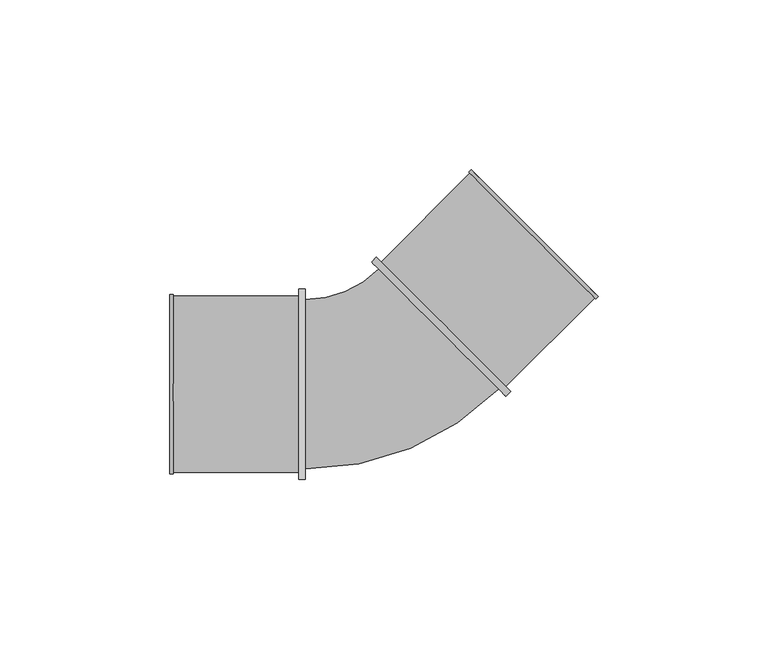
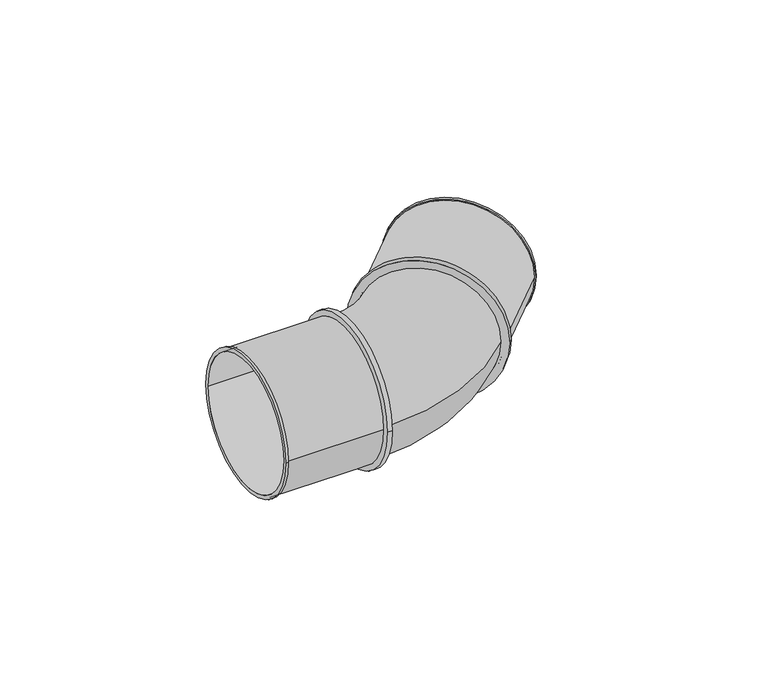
"""IFC4 building model written with IfcOpenShell, lengths in millimetres: pipe fitting geometry, SuperPipe_Elbow_SPressPlus : SuperPipe_Elbow_SPressPlus."""

from ifc_helpers import new_model, si_unit, point, frame, origin, origin_2d, place, context, project, spatial, polyline, circle_curve, ellipse_curve, trimmed, segment, composite_curve, outline, extrude, source, transform, mapped, element, save
from ifc_brep_helpers import plane_surface, cylinder_surface, revolved_surface, advanced_brep


def pipe_fitting_7024b630(model_context):
    return source(origin(), model_context, "Body", "SolidModel", [
        extrude(outline(composite_curve([segment(trimmed(circle_curve(origin_2d(), 28.0), [point((-28.0, 0.0))], [point((28.0, 0.0))], False, "CARTESIAN"), True, "CONTINUOUS"), segment(trimmed(circle_curve(origin_2d(), 28.0), [point((28.0, 0.0))], [point((-28.0, 0.0))], False, "CARTESIAN"), True, "CONTINUOUS")], self_intersect=False), holes=[composite_curve([segment(trimmed(circle_curve(origin_2d(), 25.0), [point((-25.0, 0.0))], [point((25.0, 0.0))], True, "CARTESIAN"), True, "CONTINUOUS"), segment(trimmed(circle_curve(origin_2d(), 25.0), [point((25.0, 0.0))], [point((-25.0, 0.0))], True, "CARTESIAN"), True, "CONTINUOUS")], self_intersect=False)]), frame((-25.0, 0.0, 0.0), z_axis=(1.0, 0.0, 0.0), x_axis=(0.0, 1.0, 0.0)), (0.0, 0.0, 1.0), 2.0),
        extrude(outline(composite_curve([segment(trimmed(circle_curve(origin_2d(), 28.0), [point((0.0, -28.0))], [point((0.0, 28.0))], False, "CARTESIAN"), True, "CONTINUOUS"), segment(trimmed(circle_curve(origin_2d(), 28.0), [point((0.0, 28.0))], [point((0.0, -28.0))], False, "CARTESIAN"), True, "CONTINUOUS")], self_intersect=False), holes=[composite_curve([segment(trimmed(circle_curve(origin_2d(), 25.0), [point((0.0, 25.0))], [point((0.0, -25.0))], True, "CARTESIAN"), True, "CONTINUOUS"), segment(trimmed(circle_curve(origin_2d(), 25.0), [point((0.0, -25.0))], [point((0.0, 25.0))], True, "CARTESIAN"), True, "CONTINUOUS")], self_intersect=False)]), frame((16.263456, 16.263456, 0.0), z_axis=(0.7071067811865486, 0.7071067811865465, 0.0), x_axis=(0.0, 0.0, -1.0)), (0.0, 0.0, 1.0), 2.0),
        advanced_brep(
        [(-63.0, -26.5, 0.0), (-63.0, 26.5, 0.0), (-63.0, -25.0, 0.0), (-63.0, 25.0, 0.0), (-25.0, -26.0, 0.0), (-25.0, 26.0, 0.0), (-25.0, -25.0, 0.0), (-25.0, 25.0, 0.0), (-62.0, 26.0, 0.0), (-62.0, -26.0, 0.0), (-62.0, -26.5, 0.0), (-62.0, 26.5, 0.0)],
        [
            (0, 1, circle_curve(frame((-63.0, 0.0, 0.0), z_axis=(-1.0, 0.0, 0.0), x_axis=(0.0, 1.0, 0.0)), 26.5)),
            (1, 0, circle_curve(frame((-63.0, 0.0, 0.0), z_axis=(-1.0, 0.0, 0.0), x_axis=(0.0, 1.0, 0.0)), 26.5)),
            (2, 3, circle_curve(frame((-63.0, 0.0, 0.0), z_axis=(1.0, 0.0, 0.0), x_axis=(0.0, 1.0, 0.0)), 25.0)),
            (3, 2, circle_curve(frame((-63.0, 0.0, 0.0), z_axis=(1.0, 0.0, 0.0), x_axis=(0.0, 1.0, 0.0)), 25.0)),
            (4, 5, circle_curve(frame((-25.0, 0.0, 0.0), z_axis=(1.0, 0.0, 0.0), x_axis=(0.0, 1.0, 0.0)), 26.0)),
            (5, 4, circle_curve(frame((-25.0, 0.0, 0.0), z_axis=(1.0, 0.0, 0.0), x_axis=(0.0, 1.0, 0.0)), 26.0)),
            (6, 7, circle_curve(frame((-25.0, 0.0, 0.0), z_axis=(-1.0, 0.0, 0.0), x_axis=(0.0, 1.0, 0.0)), 25.0)),
            (7, 6, circle_curve(frame((-25.0, 0.0, 0.0), z_axis=(-1.0, 0.0, 0.0), x_axis=(0.0, 1.0, 0.0)), 25.0)),
            (2, 6),
            (7, 3),
            (5, 8),
            (8, 9, circle_curve(frame((-62.0, 0.0, 0.0), z_axis=(1.0, 0.0, 0.0), x_axis=(0.0, 1.0, 0.0)), 26.0)),
            (9, 4),
            (9, 8, circle_curve(frame((-62.0, 0.0, 0.0), z_axis=(1.0, 0.0, 0.0), x_axis=(0.0, 1.0, 0.0)), 26.0)),
            (10, 11, circle_curve(frame((-62.0, 0.0, 0.0), z_axis=(1.0, 0.0, 0.0), x_axis=(0.0, 1.0, 0.0)), 26.5)),
            (11, 10, circle_curve(frame((-62.0, 0.0, 0.0), z_axis=(1.0, 0.0, 0.0), x_axis=(0.0, 1.0, 0.0)), 26.5)),
            (0, 10),
            (11, 1),
        ],
        [
            plane_surface(frame((-63.0, 0.0, 0.0), z_axis=(-1.0, 0.0, 0.0), x_axis=(0.0, 0.0, 1.0))),
            plane_surface(frame((-25.0, 0.0, 0.0), z_axis=(1.0, 0.0, 0.0), x_axis=(0.0, 0.0, 1.0))),
            revolved_surface(polyline([(-25.0, 25.0, 0.0), (-63.0, 25.0, 0.0)]), (-63.0, 0.0, 0.0), (1.0, 0.0, 0.0)),
            cylinder_surface(frame((-63.0, 0.0, 0.0), z_axis=(-1.0, 0.0, 0.0), x_axis=(0.0, 1.0, 0.0)), 26.0),
            plane_surface(frame((-62.0, 0.0, 0.0), z_axis=(1.0, 0.0, 0.0), x_axis=(0.0, 0.0, 1.0))),
            cylinder_surface(frame((-63.0, 0.0, 0.0), z_axis=(-1.0, 0.0, 0.0), x_axis=(0.0, 1.0, 0.0)), 26.5),
        ],
        [
            (0, [[1, 2], [3, 4]]),
            (1, [[5, 6], [7, 8]]),
            (2, [[-3, 9, -8, 10]]),
            (2, [[-4, -10, -7, -9]]),
            (3, [[-6, 11, 12, 13]]),
            (3, [[-5, -13, 14, -11]]),
            (4, [[15, 16], [-12, -14]]),
            (5, [[-1, 17, -16, 18]]),
            (5, [[-2, -18, -15, -17]]),
        ],
    ),
        advanced_brep(
        [(36.0624458, -0.7071068, 0.0), (-0.7071068, 36.0624458, 0.0), (35.3553391, 0.0, 0.0), (0.0, 35.3553391, 0.0), (63.2860569, 25.8093975, 0.0), (25.8093975, 63.2860569, 0.0), (62.2253967, 26.8700577, 0.0), (26.8700577, 62.2253967, 0.0), (62.2253967, 25.4558441, 0.0), (25.4558441, 62.2253967, 0.0), (62.5789501, 25.1022907, 0.0), (25.1022907, 62.5789501, 0.0)],
        [
            (0, 1, circle_curve(frame((17.6776695, 17.6776695, 0.0), z_axis=(-0.7071067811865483, -0.7071067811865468, 0.0), x_axis=(-0.7071067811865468, 0.7071067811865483, 0.0)), 26.0)),
            (1, 0, circle_curve(frame((17.6776695, 17.6776695, 0.0), z_axis=(-0.7071067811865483, -0.7071067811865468, 0.0), x_axis=(-0.7071067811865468, 0.7071067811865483, 0.0)), 26.0)),
            (2, 3, circle_curve(frame((17.6776695, 17.6776695, 0.0), z_axis=(0.7071067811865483, 0.7071067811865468, 0.0), x_axis=(-0.7071067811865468, 0.7071067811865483, 0.0)), 25.0)),
            (3, 2, circle_curve(frame((17.6776695, 17.6776695, 0.0), z_axis=(0.7071067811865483, 0.7071067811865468, 0.0), x_axis=(-0.7071067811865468, 0.7071067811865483, 0.0)), 25.0)),
            (4, 5, circle_curve(frame((44.5477272, 44.5477272, 0.0), z_axis=(0.7071067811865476, 0.7071067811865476, 0.0), x_axis=(-0.7071067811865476, 0.7071067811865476, 0.0)), 26.5)),
            (5, 4, circle_curve(frame((44.5477272, 44.5477272, 0.0), z_axis=(0.7071067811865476, 0.7071067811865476, 0.0), x_axis=(-0.7071067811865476, 0.7071067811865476, 0.0)), 26.5)),
            (6, 7, circle_curve(frame((44.5477272, 44.5477272, 0.0), z_axis=(-0.7071067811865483, -0.7071067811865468, 0.0), x_axis=(-0.7071067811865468, 0.7071067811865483, 0.0)), 25.0)),
            (7, 6, circle_curve(frame((44.5477272, 44.5477272, 0.0), z_axis=(-0.7071067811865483, -0.7071067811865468, 0.0), x_axis=(-0.7071067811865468, 0.7071067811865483, 0.0)), 25.0)),
            (0, 8),
            (8, 9, circle_curve(frame((43.8406204, 43.8406204, 0.0), z_axis=(-0.7071067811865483, -0.7071067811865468, 0.0), x_axis=(-0.7071067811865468, 0.7071067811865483, 0.0)), 26.0)),
            (9, 1),
            (9, 8, circle_curve(frame((43.8406204, 43.8406204, 0.0), z_axis=(-0.7071067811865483, -0.7071067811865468, 0.0), x_axis=(-0.7071067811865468, 0.7071067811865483, 0.0)), 26.0)),
            (2, 6),
            (7, 3),
            (10, 11, circle_curve(frame((43.8406204, 43.8406204, 0.0), z_axis=(-0.7071067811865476, -0.7071067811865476, 0.0), x_axis=(-0.7071067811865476, 0.7071067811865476, 0.0)), 26.5)),
            (11, 10, circle_curve(frame((43.8406204, 43.8406204, 0.0), z_axis=(-0.7071067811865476, -0.7071067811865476, 0.0), x_axis=(-0.7071067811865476, 0.7071067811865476, 0.0)), 26.5)),
            (11, 5),
            (4, 10),
        ],
        [
            plane_surface(frame((17.6776695, 17.6776695, 0.0), z_axis=(-0.7071067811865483, -0.7071067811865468, 0.0), x_axis=(0.0, 0.0, 1.0))),
            plane_surface(frame((44.5477272, 44.5477272, 0.0), z_axis=(0.7071067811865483, 0.7071067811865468, 0.0), x_axis=(0.0, 0.0, 1.0))),
            cylinder_surface(frame((17.6776695, 17.6776695, 0.0), z_axis=(-0.7071067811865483, -0.7071067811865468, 0.0), x_axis=(-0.7071067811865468, 0.7071067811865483, 0.0)), 26.0),
            revolved_surface(polyline([(26.870057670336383, 62.2253967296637, 0.0), (-2.9663670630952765e-08, 35.35533902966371, 0.0)]), (17.6776695, 17.6776695, 0.0), (0.7071067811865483, 0.7071067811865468, 0.0)),
            plane_surface(frame((43.8406204, 43.8406204, 0.0), z_axis=(-0.7071067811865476, -0.7071067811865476, 0.0), x_axis=(0.0, 0.0, 1.0))),
            cylinder_surface(frame((43.8406204, 43.8406204, 0.0), z_axis=(-0.7071067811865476, -0.7071067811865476, 0.0), x_axis=(-0.7071067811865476, 0.7071067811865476, 0.0)), 26.5),
        ],
        [
            (0, [[1, 2], [3, 4]]),
            (1, [[5, 6], [7, 8]]),
            (2, [[-1, 9, 10, 11]]),
            (2, [[-2, -11, 12, -9]]),
            (3, [[-3, 13, -8, 14]]),
            (3, [[-4, -14, -7, -13]]),
            (4, [[15, 16], [-10, -12]]),
            (5, [[-16, 17, -5, 18]]),
            (5, [[-15, -18, -6, -17]]),
        ],
    ),
        advanced_brep(
        [(-23.0, -25.0, 0.0), (-23.0, 25.0, 0.0), (33.9411255, -1.4142136, 0.0), (-1.4142136, 33.9411255, 0.0)],
        [
            (0, 1, circle_curve(frame((-23.0, 0.0, 0.0), z_axis=(-1.0, 0.0, 0.0), x_axis=(0.0, 1.0, 0.0)), 25.0)),
            (1, 0, circle_curve(frame((-23.0, 0.0, 0.0), z_axis=(-1.0, 0.0, 0.0), x_axis=(0.0, 1.0, 0.0)), 25.0)),
            (2, 3, circle_curve(frame((16.263456, 16.263456, 0.0), z_axis=(0.7071067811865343, 0.7071067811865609, 0.0), x_axis=(-0.7071067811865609, 0.7071067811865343, 0.0)), 25.0)),
            (3, 2, circle_curve(frame((16.263456, 16.263456, 0.0), z_axis=(0.7071067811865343, 0.7071067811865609, 0.0), x_axis=(-0.7071067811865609, 0.7071067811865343, 0.0)), 25.0)),
            (3, 1, circle_curve(frame((-23.0, 55.5269119, 0.0), z_axis=(0.0, 0.0, -1.0), x_axis=(0.0, -1.0, 0.0)), 30.5269119)),
            (0, 2, circle_curve(frame((-23.0, 55.5269119, 0.0), z_axis=(0.0, 0.0, 1.0), x_axis=(0.0, -1.0, 0.0)), 80.5269119)),
        ],
        [
            plane_surface(frame((-23.0, 0.0, 0.0), z_axis=(-1.0, 0.0, 0.0), x_axis=(0.0, 0.0, 1.0))),
            plane_surface(frame((16.263456, 16.263456, 0.0), z_axis=(0.7071067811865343, 0.7071067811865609, 0.0), x_axis=(0.0, 0.0, 1.0))),
            revolved_surface(trimmed(ellipse_curve(frame((-23.0, 0.0, 0.0), z_axis=(-1.0, 0.0, 0.0), x_axis=(0.0, 1.0, 0.0)), 25.0, 25.0), [point((-23.0, -25.0, 0.0))], [point((-23.0, 25.0, 0.0))], True, "CARTESIAN"), (-23.0, 55.5269119, 0.0), (0.0, 0.0, 1.0)),
            revolved_surface(trimmed(ellipse_curve(frame((-23.0, 0.0, 0.0), z_axis=(-1.0, 0.0, 0.0), x_axis=(0.0, 1.0, 0.0)), 25.0, 25.0), [point((-23.0, 25.0, 0.0))], [point((-23.0, -25.0, 0.0))], True, "CARTESIAN"), (-23.0, 55.5269119, 0.0), (0.0, 0.0, 1.0)),
        ],
        [
            (0, [[1, 2]]),
            (1, [[3, 4]]),
            (2, [[5, -1, 6, -4]]),
            (3, [[-6, -2, -5, -3]]),
        ],
    ),
    ])


if __name__ == "__main__":
    model = new_model("IFC4")
    model_context = context("Model", 3, world=origin())
    ifc_project = project(units=[si_unit("LENGTHUNIT", "METRE", prefix="MILLI")], contexts=[model_context])
    site = spatial("IfcSite", under=ifc_project)
    building = spatial("IfcBuilding", under=site)
    placement = place(None, origin())
    pipe_fitting_shape = pipe_fitting_7024b630(model_context)
    element("IfcPipeFitting", 1, ObjectType="SuperPipe_Elbow_SPressPlus : SuperPipe_Elbow_SPressPlus", at=placement, inside=building, context=model_context, shape_type="MappedRepresentation", body=[
        mapped(pipe_fitting_shape, transform((0.0, 0.0, 0.0), x_axis=(1.0, 0.0, 0.0), y_axis=(0.0, 1.0, 0.0), z_axis=(0.0, 0.0, 1.0))),
    ])
    save(model, "model.ifc")
